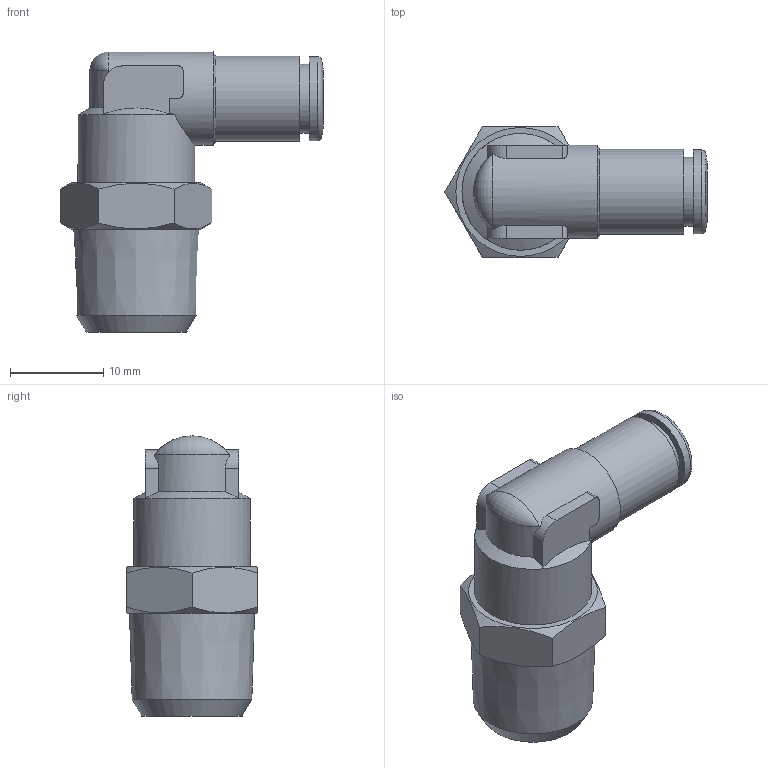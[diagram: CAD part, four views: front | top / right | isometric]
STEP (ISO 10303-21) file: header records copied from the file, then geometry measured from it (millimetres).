
FILE_DESCRIPTION(/* description */ (''),/* implementation_level */ '2;1');
FILE_NAME(/* name */ '202252-ES_STX15_4_R14_07.03.17',/* time_stamp */ '2017-03-07T13:18:10+01:00',/* author */ (''),/* organization */ (''),/* preprocessor_version */ 'ST-DEVELOPER v16.5',/* originating_system */ 'HiCAD 2016 2102.1 Build 498',/* authorisation */ '');
FILE_SCHEMA (('AUTOMOTIVE_DESIGN { 1 0 10303 214 1 1 1 1 }'));
Length unit declared in the file: millimetre
Products named in the file (4): Root; R150418-N2; 214626-N2; DR4-1_NEU
Assembly tree (3 placements, depth 2):
  Root
    R150418-N2
    214626-N2
    DR4-1_NEU
Bounding box: 28.08 x 14 x 30 mm (x, y, z)
Volume: 3408.3 mm3; surface area: 3540.4 mm2
Topology: 3 solids, 3 shells, 75 faces, 170 edges, 106 vertices
Faces by surface type: plane 28, cylinder 25, cone 20, torus 2
Full cylindrical faces by diameter (mm): 3 x1, 4.1 x2, 5.5 x1, 6 x1, 6.4 x1, 7 x1, 7.3 x1, 7.4 x1, 7.6 x1, 9 x3, 9.1 x1, 10 x1, 10.1 x2, 12.5 x1
Entity records: 5095 total; most frequent: CARTESIAN_POINT 2263, DIRECTION 354, PRESENTATION_STYLE_ASSIGNMENT 249, COLOUR_RGB 247, DRAUGHTING_PRE_DEFINED_CURVE_FONT 246, CURVE_STYLE 246, OVER_RIDING_STYLED_ITEM 246, ORIENTED_EDGE 246
